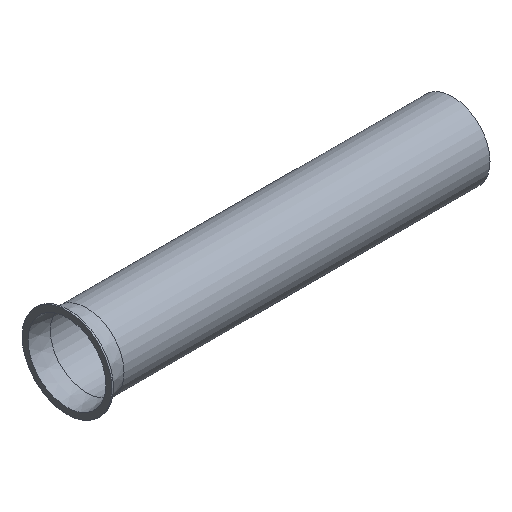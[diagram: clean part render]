
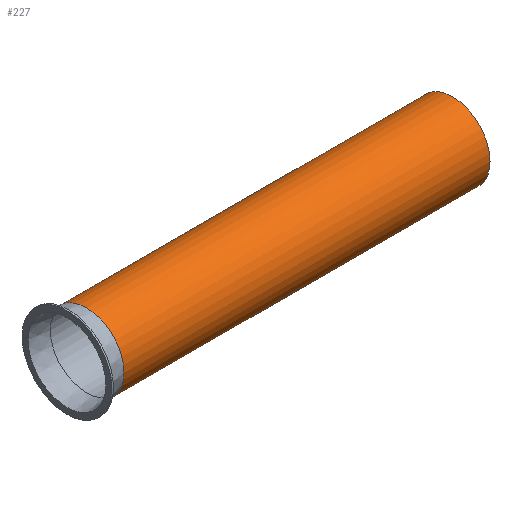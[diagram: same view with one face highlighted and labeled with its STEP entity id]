
A CAD part, isometric view. The second image highlights one B-rep face of the part: STEP entity #227.
In plain terms, the highlighted cylindrical face has radius 48 mm (diameter 96 mm), a full revolution.
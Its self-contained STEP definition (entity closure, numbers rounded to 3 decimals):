
#132=CARTESIAN_POINT('',(-2.081,46.334,0.0));
#133=VERTEX_POINT('',#132);
#134=CARTESIAN_POINT('',(-2.081,94.334,0.0));
#135=DIRECTION('',(-1.0,0.0,0.0));
#136=DIRECTION('',(0.0,-1.0,0.0));
#137=AXIS2_PLACEMENT_3D('',#134,#135,#136);
#138=CIRCLE('',#137,48.);
#139=EDGE_CURVE('',#133,#133,#138,.T.);
#201=CARTESIAN_POINT('',(465.919,46.334,0.0));
#202=VERTEX_POINT('',#201);
#203=CARTESIAN_POINT('',(465.919,94.334,0.0));
#204=DIRECTION('',(-1.0,0.0,0.0));
#205=DIRECTION('',(0.0,-1.0,0.0));
#206=AXIS2_PLACEMENT_3D('',#203,#204,#205);
#207=CIRCLE('',#206,48.);
#208=EDGE_CURVE('',#202,#202,#207,.T.);
#216=CARTESIAN_POINT('',(231.919,94.334,0.0));
#217=DIRECTION('',(-1.0,0.,0.0));
#218=DIRECTION('',(0.0,-1.0,0.0));
#219=AXIS2_PLACEMENT_3D('',#216,#217,#218);
#220=CYLINDRICAL_SURFACE('',#219,48.);
#221=ORIENTED_EDGE('',*,*,#139,.F.);
#222=EDGE_LOOP('',(#221));
#223=FACE_OUTER_BOUND('',#222,.T.);
#224=ORIENTED_EDGE('',*,*,#208,.T.);
#225=EDGE_LOOP('',(#224));
#226=FACE_BOUND('',#225,.T.);
#227=ADVANCED_FACE('',(#223,#226),#220,.T.);
